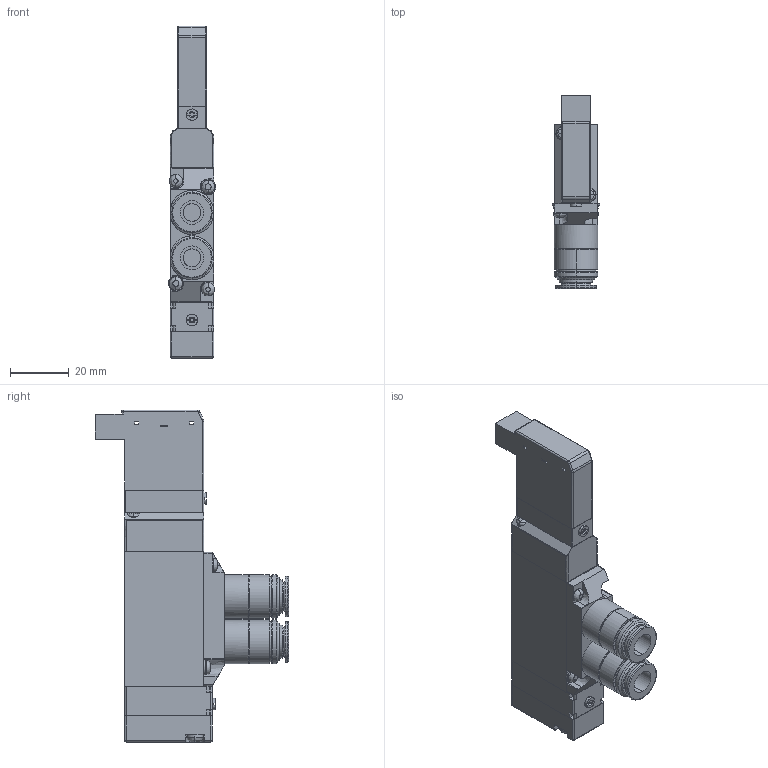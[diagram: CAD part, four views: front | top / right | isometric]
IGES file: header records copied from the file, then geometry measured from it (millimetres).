
Start section: ------------------------------------------------------------------------
Global section: file name: D:\ICADMX\tmp\trans3d_spg\CVICAD02.7120.F15T2-FJ_17047.igs; native system: spGate; preprocessor: ver12.6.6; author: Unknown; organization: Unknown; date: 210712.185009; units: millimetre
Bounding box: 16.2 x 66 x 113.5 mm (x, y, z)
Volume: 51393 mm3; surface area: 20708 mm2
Topology: 7 solids, 7 shells, 380 faces, 928 edges, 581 vertices
Faces by surface type: bspline 380
